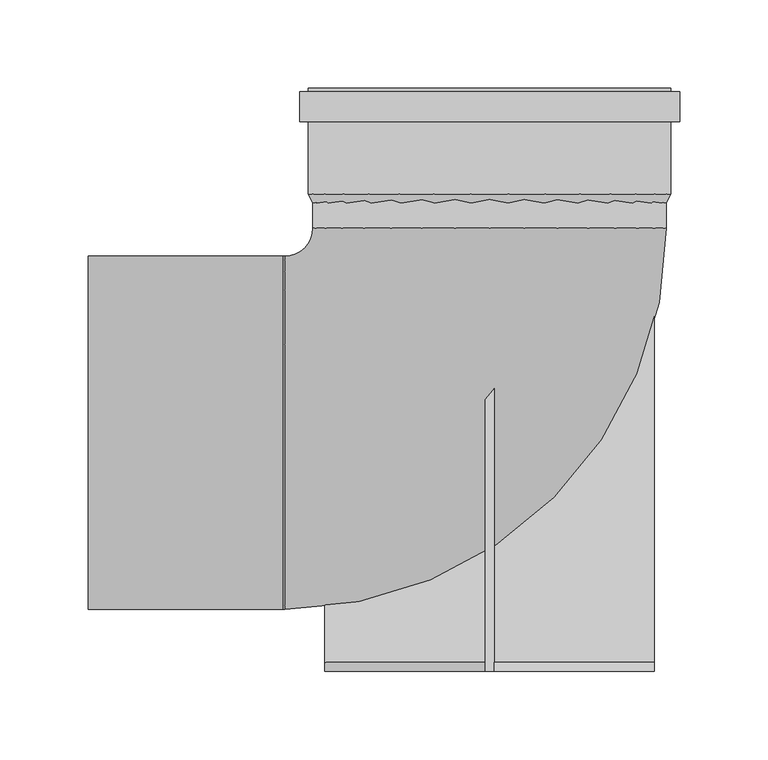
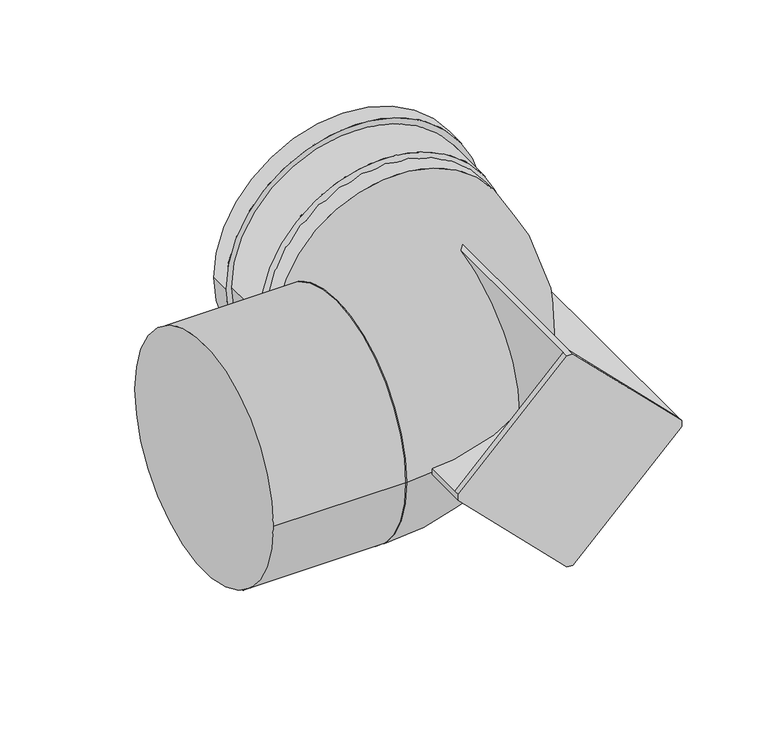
"""IFC4 building model written with IfcOpenShell, lengths in millimetres: duct fitting geometry, RSFen_DUF_UN_Twinline Supportbend_M&G : ø130 - 150 - 200."""

from ifc_helpers import new_model, si_unit, point, frame, origin, origin_2d, place, context, project, spatial, polyline, circle_curve, ellipse_curve, trimmed, segment, composite_curve, outline, extrude, faceted_brep, source, transform, mapped, element, save
from ifc_brep_helpers import plane_surface, cylinder_surface, revolved_surface, advanced_brep


def duct_fitting_29f06fc0(model_context):
    return source(origin(), model_context, "Body", "SolidModel", [
        faceted_brep([(-2.5, 80.0, 2.5), (-2.5, 80.0, 93.2), (2.5, 80.0, 93.2), (2.5, 80.0, 2.5), (93.2, 80.0, 2.5), (93.2, 80.0, -2.5), (2.5, 80.0, -2.5), (2.5, 80.0, -93.2), (-2.5, 80.0, -93.2), (-2.5, 80.0, -2.5), (-93.2, 80.0, -2.5), (-93.2, 80.0, 2.5), (-93.2, -135.0, 2.5), (-93.2, -135.0, -2.5), (-2.5, -135.0, -93.2), (2.5, -135.0, -93.2), (93.2, -135.0, -2.5), (93.2, -135.0, 2.5), (2.5, -135.0, 93.2), (-2.5, -135.0, 93.2), (93.2, -130.0, 2.5), (93.2, -130.0, -2.5), (2.5, -130.0, -2.5), (2.5, -130.0, -93.2), (-2.5, -130.0, -93.2), (-2.5, -130.0, -2.5), (-93.2, -130.0, -2.5), (-93.2, -130.0, 2.5), (-2.5, -130.0, 2.5), (2.5, -130.0, 93.2), (2.5, -130.0, 2.5), (-2.5, -130.0, 93.2)], [[[0, 1, 2, 3, 4, 5, 6, 7, 8, 9, 10, 11]], [[12, 13, 14, 15, 16, 17, 18, 19]], [[5, 4, 20, 17, 16, 21]], [[6, 5, 21, 22]], [[7, 6, 22, 23]], [[8, 7, 23, 15, 14, 24]], [[9, 8, 24, 25]], [[10, 9, 25, 26]], [[11, 10, 26, 13, 12, 27]], [[0, 11, 27, 28]], [[29, 20, 30]], [[21, 23, 22]], [[24, 26, 25]], [[27, 31, 28]], [[20, 29, 18, 17]], [[23, 21, 16, 15]], [[1, 0, 28, 31]], [[2, 1, 31, 19, 18, 29]], [[3, 2, 29, 30]], [[4, 3, 30, 20]], [[26, 24, 14, 13]], [[31, 27, 12, 19]]]),
        advanced_brep(
        [(-227.0, 100.0, 0.0), (-227.0, -100.0, 0.0), (-117.0, 100.0, 0.0), (-117.0, -100.0, 0.0), (-116.0, -100.0, 0.0), (-116.0, 100.0, 0.0), (100.0, 116.0, 0.0), (-100.0, 116.0, 0.0), (100.0, 135.0, 0.0), (0.0, 135.0, 100.0), (-100.0, 135.0, 0.0), (0.0, 135.0, -100.0), (0.0, 137.0, -100.0), (0.0, 137.0, 100.0)],
        [
            (0, 1, circle_curve(frame((-227.0, 0.0, 0.0), z_axis=(-1.0, 0.0, 0.0), x_axis=(0.0, -1.0, 0.0)), 100.0)),
            (1, 0, circle_curve(frame((-227.0, 0.0, 0.0), z_axis=(-1.0, 0.0, 0.0), x_axis=(0.0, -1.0, 0.0)), 100.0)),
            (0, 2),
            (2, 3, circle_curve(frame((-117.0, 0.0, 0.0), z_axis=(-1.0, 0.0, 0.0), x_axis=(0.0, -1.0, 0.0)), 100.0)),
            (3, 1),
            (3, 2, circle_curve(frame((-117.0, 0.0, 0.0), z_axis=(-1.0, 0.0, 0.0), x_axis=(0.0, -1.0, 0.0)), 100.0)),
            (3, 4),
            (4, 5, circle_curve(frame((-116.0, 0.0, 0.0), z_axis=(-1.0, 0.0, 0.0), x_axis=(0.0, 1.0, 0.0)), 100.0)),
            (5, 2),
            (5, 4, circle_curve(frame((-116.0, 0.0, 0.0), z_axis=(-1.0, 0.0, 0.0), x_axis=(0.0, 1.0, 0.0)), 100.0)),
            (4, 6, circle_curve(frame((-116.0, 116.0, 0.0), z_axis=(0.0, 0.0, 1.0), x_axis=(0.0, -1.0, 0.0)), 216.0)),
            (6, 7, circle_curve(frame((0.0, 116.0, 0.0), z_axis=(0.0, -1.0, 0.0), x_axis=(-1.0, 0.0, 0.0)), 100.0)),
            (7, 5, circle_curve(frame((-116.0, 116.0, 0.0), z_axis=(0.0, 0.0, -1.0), x_axis=(0.0, -1.0, 0.0)), 16.0)),
            (7, 6, circle_curve(frame((0.0, 116.0, 0.0), z_axis=(0.0, -1.0, 0.0), x_axis=(-1.0, 0.0, 0.0)), 100.0)),
            (6, 8),
            (8, 9, circle_curve(frame((0.0, 135.0, 0.0), z_axis=(0.0, -1.0, 0.0), x_axis=(-1.0, 0.0, 0.0)), 100.0)),
            (9, 10, circle_curve(frame((0.0, 135.0, 0.0), z_axis=(0.0, -1.0, 0.0), x_axis=(-1.0, 0.0, 0.0)), 100.0)),
            (10, 7),
            (10, 11, circle_curve(frame((0.0, 135.0, 0.0), z_axis=(0.0, -1.0, 0.0), x_axis=(-1.0, 0.0, 0.0)), 100.0)),
            (11, 8, circle_curve(frame((0.0, 135.0, 0.0), z_axis=(0.0, -1.0, 0.0), x_axis=(-1.0, 0.0, 0.0)), 100.0)),
            (12, 13, circle_curve(frame((0.0, 137.0, 0.0), z_axis=(0.0, 1.0, 0.0), x_axis=(0.0, 0.0, 1.0)), 100.0)),
            (13, 12, circle_curve(frame((0.0, 137.0, 0.0), z_axis=(0.0, 1.0, 0.0), x_axis=(0.0, 0.0, 1.0)), 100.0)),
            (12, 11),
            (9, 13),
        ],
        [
            plane_surface(frame((-227.0, -100.0, 0.0), z_axis=(-1.0, 0.0, 0.0), x_axis=(0.0, 0.0, 1.0))),
            cylinder_surface(frame((-117.0, 0.0, 0.0), z_axis=(-1.0, 0.0, 0.0), x_axis=(0.0, -1.0, 0.0)), 100.0),
            cylinder_surface(frame((-117.0, 0.0, 0.0), z_axis=(-1.0, 0.0, 0.0), x_axis=(0.0, 1.0, 0.0)), 100.0),
            revolved_surface(trimmed(ellipse_curve(frame((-116.0, 0.0, 0.0), z_axis=(-1.0, 0.0, 0.0), x_axis=(0.0, 1.0, 0.0)), 100.0, 100.0), [point((-116.0, -100.0, 0.0))], [point((-116.0, 100.0, 0.0))], True, "CARTESIAN"), (-116.0, 116.0, 0.0), (0.0, 0.0, 1.0)),
            revolved_surface(trimmed(ellipse_curve(frame((-116.0, 0.0, 0.0), z_axis=(-1.0, 0.0, 0.0), x_axis=(0.0, 1.0, 0.0)), 100.0, 100.0), [point((-116.0, 100.0, 0.0))], [point((-116.0, -100.0, 0.0))], True, "CARTESIAN"), (-116.0, 116.0, 0.0), (0.0, 0.0, 1.0)),
            cylinder_surface(frame((0.0, 116.0, 0.0), z_axis=(0.0, -1.0, 0.0), x_axis=(-1.0, 0.0, 0.0)), 100.0),
            plane_surface(frame((0.0, 137.0, 100.0), z_axis=(0.0, 1.0, 0.0), x_axis=(1.0, 0.0, 0.0))),
            cylinder_surface(frame((0.0, 135.0, 0.0), z_axis=(0.0, 1.0, 0.0), x_axis=(0.0, 0.0, 1.0)), 100.0),
        ],
        [
            (0, [[1, 2]]),
            (1, [[-1, 3, 4, 5]]),
            (1, [[-2, -5, 6, -3]]),
            (2, [[7, 8, 9, -6]]),
            (2, [[-7, -4, -9, 10]]),
            (3, [[-8, 11, 12, 13]]),
            (4, [[-10, -13, 14, -11]]),
            (5, [[-12, 15, 16, 17, 18]]),
            (5, [[-14, -18, 19, 20, -15]]),
            (6, [[21, 22]]),
            (7, [[-21, 23, -19, -17, 24]]),
            (7, [[-22, -24, -16, -20, -23]]),
        ],
    ),
        extrude(outline(composite_curve([segment(trimmed(circle_curve(origin_2d(), 107.5), [point((0.0, 107.5))], [point((0.0, -107.5))], False, "CARTESIAN"), True, "CONTINUOUS"), segment(trimmed(circle_curve(origin_2d(), 107.5), [point((0.0, -107.5))], [point((0.0, 107.5))], False, "CARTESIAN"), True, "CONTINUOUS")], self_intersect=False), holes=[composite_curve([segment(trimmed(circle_curve(origin_2d(), 102.5), [point((0.0, -102.5))], [point((0.0, 102.5))], True, "CARTESIAN"), True, "CONTINUOUS"), segment(trimmed(circle_curve(origin_2d(), 102.5), [point((0.0, 102.5))], [point((0.0, -102.5))], True, "CARTESIAN"), True, "CONTINUOUS")], self_intersect=False)]), frame((0.0, 176.0, 0.0), z_axis=(0.0, 1.0, 0.0), x_axis=(0.0, 0.0, 1.0)), (0.0, 0.0, 1.0), 17.0),
        advanced_brep(
        [(-102.5, 135.0, 0.0), (102.5, 135.0, 0.0), (102.5, 195.0, 0.0), (-102.5, 195.0, 0.0), (-100.0, 130.0, 0.0), (100.0, 130.0, 0.0), (-100.0, 195.0, 0.0), (100.0, 195.0, 0.0)],
        [
            (0, 1, circle_curve(frame((0.0, 135.0, 0.0), z_axis=(0.0, 1.0, 0.0), x_axis=(1.0, 0.0, 0.0)), 102.5)),
            (1, 2),
            (2, 3, circle_curve(frame((0.0, 195.0, 0.0), z_axis=(0.0, -1.0, 0.0), x_axis=(1.0, 0.0, 0.0)), 102.5)),
            (3, 0),
            (4, 5, circle_curve(frame((0.0, 130.0, 0.0), z_axis=(0.0, 1.0, 0.0), x_axis=(1.0, 0.0, 0.0)), 100.0)),
            (5, 1),
            (0, 4),
            (6, 7, circle_curve(frame((0.0, 195.0, 0.0), z_axis=(0.0, 1.0, 0.0), x_axis=(1.0, 0.0, 0.0)), 100.0)),
            (7, 5),
            (4, 6),
            (2, 3, circle_curve(frame((0.0, 195.0, 0.0), z_axis=(0.0, 1.0, 0.0), x_axis=(-1.0, 0.0, 0.0)), 102.5)),
            (6, 7, circle_curve(frame((0.0, 195.0, 0.0), z_axis=(0.0, -1.0, 0.0), x_axis=(-1.0, 0.0, 0.0)), 100.0)),
            (1, 0, circle_curve(frame((0.0, 135.0, 0.0), z_axis=(0.0, 1.0, 0.0), x_axis=(-1.0, 0.0, 0.0)), 102.5)),
            (5, 4, circle_curve(frame((0.0, 130.0, 0.0), z_axis=(0.0, 1.0, 0.0), x_axis=(-1.0, 0.0, 0.0)), 100.0)),
        ],
        [
            cylinder_surface(frame((0.0, 135.0, 0.0), z_axis=(0.0, -1.0, 0.0), x_axis=(1.0, 0.0, 0.0)), 102.5),
            revolved_surface(polyline([(102.5, 135.0, 0.0), (100.0, 130.0, 0.0)]), (0.0, 135.0, 0.0), (0.0, -1.0, 0.0)),
            revolved_surface(polyline([(100.0, 130.0, 0.0), (100.0, 195.0, 0.0)]), (0.0, 135.0, 0.0), (0.0, -1.0, 0.0)),
            plane_surface(frame((0.0, 195.0, 0.0), z_axis=(0.0, 1.0, 0.0), x_axis=(-1.0, 0.0, 0.0))),
            cylinder_surface(frame((0.0, 135.0, 0.0), z_axis=(0.0, -1.0, 0.0), x_axis=(-1.0, 0.0, 0.0)), 102.5),
            revolved_surface(polyline([(-102.5, 135.0, 0.0), (-100.0, 130.0, 0.0)]), (0.0, 135.0, 0.0), (0.0, -1.0, 0.0)),
            revolved_surface(polyline([(-100.0, 130.0, 0.0), (-100.0, 195.0, 0.0)]), (0.0, 135.0, 0.0), (0.0, -1.0, 0.0)),
        ],
        [
            (0, [[1, 2, 3, 4]]),
            (1, [[5, 6, -1, 7]]),
            (2, [[8, 9, -5, 10]]),
            (3, [[11, -3], [12, -8]]),
            (4, [[13, -4, -11, -2]]),
            (5, [[14, -7, -13, -6]]),
            (6, [[-12, -10, -14, -9]]),
        ],
    ),
    ])


if __name__ == "__main__":
    model = new_model("IFC4")
    model_context = context("Model", 3, world=origin())
    ifc_project = project(units=[si_unit("LENGTHUNIT", "METRE", prefix="MILLI")], contexts=[model_context])
    site = spatial("IfcSite", under=ifc_project)
    building = spatial("IfcBuilding", under=site)
    placement = place(None, origin())
    duct_fitting_shape = duct_fitting_29f06fc0(model_context)
    element("IfcDuctFitting", 1, ObjectType="RSFen_DUF_UN_Twinline Supportbend_M&G : ø130 - 150 - 200", at=placement, inside=building, context=model_context, shape_type="MappedRepresentation", body=[
        mapped(duct_fitting_shape, transform((0.0, 0.0, 0.0), x_axis=(1.0, 0.0, 0.0), y_axis=(0.0, 1.0, 0.0), z_axis=(0.0, 0.0, 1.0))),
    ])
    save(model, "model.ifc")
